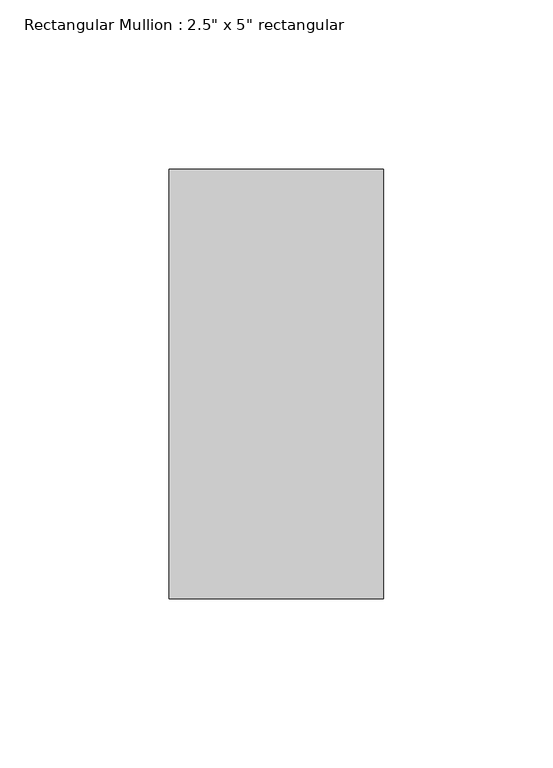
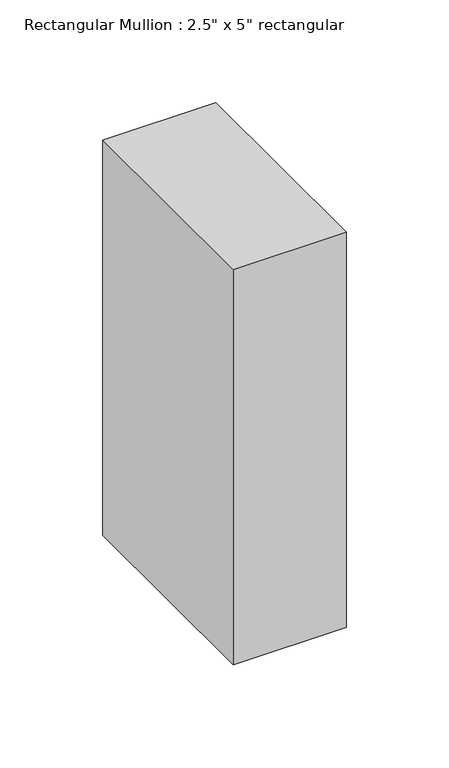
"""IFC4 building model written with IfcOpenShell, lengths in millimetres: member geometry."""

from ifc_helpers import new_model, si_unit, frame, origin, place, context, project, spatial, polyline, outline, extrude, source, transform, mapped, element, save


def member_a75f139a(model_context):
    return source(origin(), model_context, "Body", "SweptSolid", [
        extrude(outline(polyline([(31.75, 63.5), (31.75, -63.5), (-31.75, -63.5), (-31.75, 63.5), (31.75, 63.5)])), frame((0.0, 0.0, -234.95), z_axis=(0.0, 0.0, 1.0), x_axis=(1.0, 0.0, 0.0)), (0.0, 0.0, 1.0), 234.95),
    ])


if __name__ == "__main__":
    model = new_model("IFC4")
    model_context = context("Model", 3, world=origin())
    ifc_project = project(units=[si_unit("LENGTHUNIT", "METRE", prefix="MILLI")], contexts=[model_context])
    site = spatial("IfcSite", under=ifc_project)
    building = spatial("IfcBuilding", under=site)
    placement = place(None, origin())
    member_shape = member_a75f139a(model_context)
    element("IfcMember", 1, ObjectType="Rectangular Mullion : 2.5\" x 5\" rectangular", at=placement, inside=building, context=model_context, shape_type="MappedRepresentation", body=[
        mapped(member_shape, transform((0.0, 0.0, 0.0), x_axis=(1.0, 0.0, 0.0), y_axis=(0.0, 1.0, 0.0), z_axis=(0.0, 0.0, 1.0))),
    ])
    save(model, "model.ifc")
